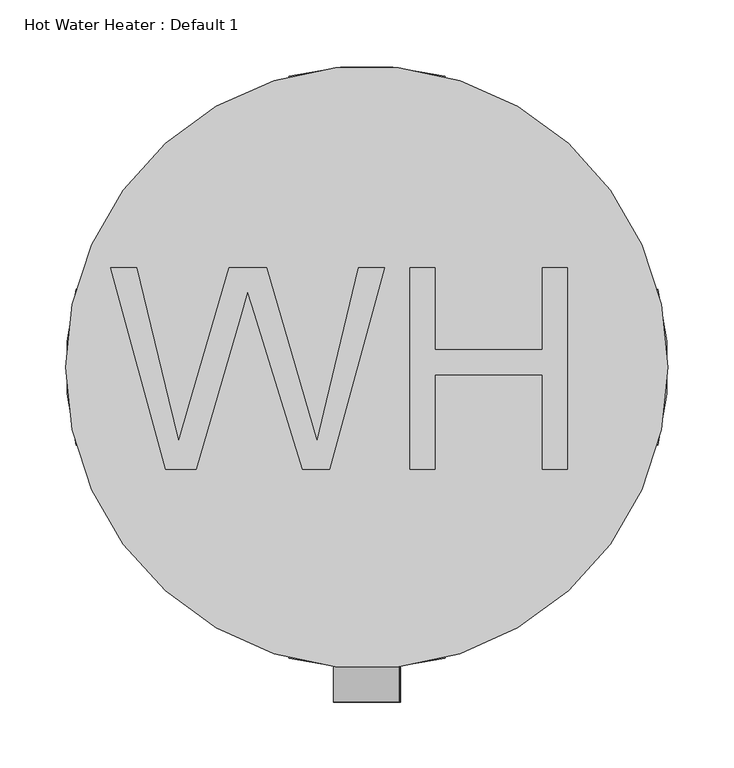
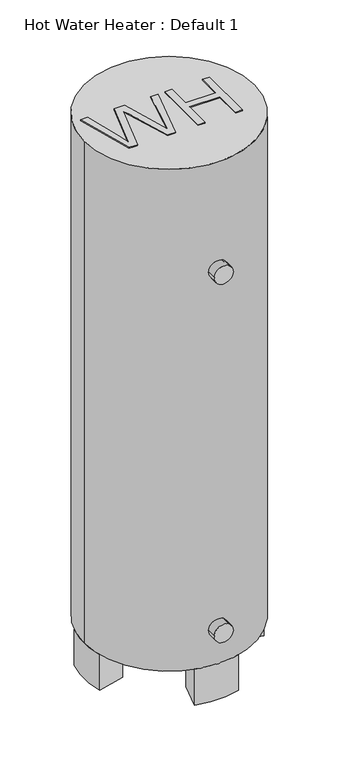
"""IFC4 building model written with IfcOpenShell, lengths in millimetres: proxy geometry, Hot Water Heater : Default 1."""

from ifc_helpers import new_model, si_unit, point, frame, frame_2d, origin, origin_with_axes, origin_2d, place, context, project, spatial, polyline, circle_curve, trimmed, segment, composite_curve, outline, extrude, source, transform, mapped, element, save


def hot_water_heater_default_1_f8e76a24(model_context):
    return source(origin(), model_context, "Body", "SweptSolid", [
        extrude(outline(polyline([(-152.7755426, -77.559922), (-194.5254402, 75.5354947), (-174.7904841, 75.5354947), (-150.5703108, -25.0828798), (-143.0949486, -56.1430095), (-135.0963111, -28.6710536), (-104.7463408, 75.5354947), (-76.3025879, 75.5354947), (-54.2502696, -0.0030398), (-37.8418497, -56.1430095), (-30.5907484, -25.9799232), (-6.1463142, 75.5354947), (13.5886419, 75.5354947), (-28.1986325, -77.559922), (-48.643748, -77.559922), (-85.3477761, 40.5507998), (-90.4683991, 57.0339733), (-96.224428, 37.1868869), (-129.6766736, -77.559922), (-152.7755426, -77.559922)])), frame((0.0, 0.0, 1524.0), z_axis=(0.0, 0.0, 1.0), x_axis=(1.0, 0.0, 0.0)), (0.0, 0.0, 1.0), 2.5796875),
        extrude(outline(polyline([(32.725569, -77.559922), (32.725569, 75.5354947), (51.862496, 75.5354947), (51.862496, 13.3404816), (133.1944361, 13.3404816), (133.1944361, 75.5354947), (152.3313632, 75.5354947), (152.3313632, -77.559922), (133.1944361, -77.559922), (133.1944361, -5.7964455), (51.862496, -5.7964455), (51.862496, -77.559922), (32.725569, -77.559922)])), frame((0.0, 0.0, 1524.0), z_axis=(0.0, 0.0, 1.0), x_axis=(1.0, 0.0, 0.0)), (0.0, 0.0, 1.0), 2.5796875),
        extrude(outline(composite_curve([segment(polyline([(-39.4440225, 147.2070959), (-59.1660337, 220.8106439)]), True, "CONTINUOUS"), segment(trimmed(circle_curve(origin_2d(), 228.6), [point((-59.1660337, 220.8106439))], [point((59.1660337, 220.8106439))], False, "CARTESIAN"), True, "CONTINUOUS"), segment(polyline([(59.1660337, 220.8106439), (39.4440225, 147.2070959)]), True, "CONTINUOUS"), segment(trimmed(circle_curve(origin_2d(), 152.4), [point((39.4440225, 147.2070959))], [point((-39.4440225, 147.2070959))], True, "CARTESIAN"), True, "CONTINUOUS")], self_intersect=False)), origin_with_axes(), (0.0, 0.0, 1.0), 101.6),
        extrude(outline(composite_curve([segment(polyline([(147.2070959, 39.4440225), (220.8106439, 59.1660337)]), True, "CONTINUOUS"), segment(trimmed(circle_curve(origin_2d(), 228.6), [point((220.8106439, 59.1660337))], [point((220.8106439, -59.1660337))], False, "CARTESIAN"), True, "CONTINUOUS"), segment(polyline([(220.8106439, -59.1660337), (147.2070959, -39.4440225)]), True, "CONTINUOUS"), segment(trimmed(circle_curve(origin_2d(), 152.4), [point((147.2070959, -39.4440225))], [point((147.2070959, 39.4440225))], True, "CARTESIAN"), True, "CONTINUOUS")], self_intersect=False)), origin_with_axes(), (0.0, 0.0, 1.0), 101.6),
        extrude(outline(composite_curve([segment(polyline([(-220.8106439, 59.1660337), (-147.2070959, 39.4440225)]), True, "CONTINUOUS"), segment(trimmed(circle_curve(origin_2d(), 152.4), [point((-147.2070959, 39.4440225))], [point((-147.2070959, -39.4440225))], True, "CARTESIAN"), True, "CONTINUOUS"), segment(polyline([(-147.2070959, -39.4440225), (-220.8106439, -59.1660337)]), True, "CONTINUOUS"), segment(trimmed(circle_curve(origin_2d(), 228.6), [point((-220.8106439, -59.1660337))], [point((-220.8106439, 59.1660337))], False, "CARTESIAN"), True, "CONTINUOUS")], self_intersect=False)), origin_with_axes(), (0.0, 0.0, 1.0), 101.6),
        extrude(outline(composite_curve([segment(polyline([(-59.1660337, -220.8106439), (-39.4440225, -147.2070959)]), True, "CONTINUOUS"), segment(trimmed(circle_curve(origin_2d(), 152.4), [point((-39.4440225, -147.2070959))], [point((39.4440225, -147.2070959))], True, "CARTESIAN"), True, "CONTINUOUS"), segment(polyline([(39.4440225, -147.2070959), (59.1660337, -220.8106439)]), True, "CONTINUOUS"), segment(trimmed(circle_curve(origin_2d(), 228.6), [point((59.1660337, -220.8106439))], [point((-59.1660337, -220.8106439))], False, "CARTESIAN"), True, "CONTINUOUS")], self_intersect=False)), origin_with_axes(), (0.0, 0.0, 1.0), 101.6),
        extrude(outline(composite_curve([segment(trimmed(circle_curve(origin_2d(), 228.6), [point((228.6, 0.0))], [point((-228.6, 0.0))], False, "CARTESIAN"), True, "CONTINUOUS"), segment(trimmed(circle_curve(origin_2d(), 228.6), [point((-228.6, 0.0))], [point((228.6, 0.0))], False, "CARTESIAN"), True, "CONTINUOUS")], self_intersect=False)), frame((0.0, 0.0, 101.6), z_axis=(0.0, 0.0, 1.0), x_axis=(1.0, 0.0, 0.0)), (0.0, 0.0, 1.0), 1422.4),
        extrude(outline(composite_curve([segment(trimmed(circle_curve(origin_2d(), 228.6), [point((-228.6, 0.0))], [point((228.6, 0.0))], False, "CARTESIAN"), True, "CONTINUOUS"), segment(trimmed(circle_curve(origin_2d(), 228.6), [point((228.6, 0.0))], [point((-228.6, 0.0))], False, "CARTESIAN"), True, "CONTINUOUS")], self_intersect=False)), frame((0.0, 0.0, 101.6), z_axis=(0.0, 0.0, 1.0), x_axis=(1.0, 0.0, 0.0)), (0.0, 0.0, 1.0), 1422.4),
        extrude(outline(composite_curve([segment(trimmed(circle_curve(frame_2d((203.2, 0.0)), 25.4), [point((203.2, 25.4))], [point((203.2, -25.4))], False, "CARTESIAN"), True, "CONTINUOUS"), segment(trimmed(circle_curve(frame_2d((203.2, 0.0)), 25.4), [point((203.2, -25.4))], [point((203.2, 25.4))], False, "CARTESIAN"), True, "CONTINUOUS")], self_intersect=False)), frame((0.0, -254.0, 0.0), z_axis=(0.0, 1.0, 0.0), x_axis=(0.0, 0.0, 1.0)), (0.0, 0.0, 1.0), 50.8),
        extrude(outline(composite_curve([segment(trimmed(circle_curve(frame_2d((1219.2, 0.0)), 25.4), [point((1219.2, 25.4))], [point((1219.2, -25.4))], False, "CARTESIAN"), True, "CONTINUOUS"), segment(trimmed(circle_curve(frame_2d((1219.2, 0.0)), 25.4), [point((1219.2, -25.4))], [point((1219.2, 25.4))], False, "CARTESIAN"), True, "CONTINUOUS")], self_intersect=False)), frame((0.0, -254.0, 0.0), z_axis=(0.0, 1.0, 0.0), x_axis=(0.0, 0.0, 1.0)), (0.0, 0.0, 1.0), 50.8),
        extrude(outline(composite_curve([segment(trimmed(circle_curve(frame_2d((1219.2, 0.0)), 25.4), [point((1219.2, -25.4))], [point((1219.2, 25.4))], False, "CARTESIAN"), True, "CONTINUOUS"), segment(trimmed(circle_curve(frame_2d((1219.2, 0.0)), 25.4), [point((1219.2, 25.4))], [point((1219.2, -25.4))], False, "CARTESIAN"), True, "CONTINUOUS")], self_intersect=False)), frame((0.0, -254.0, 0.0), z_axis=(0.0, 1.0, 0.0), x_axis=(0.0, 0.0, 1.0)), (0.0, 0.0, 1.0), 50.8),
        extrude(outline(composite_curve([segment(trimmed(circle_curve(frame_2d((203.2, 0.0)), 25.4), [point((203.2, -25.4))], [point((203.2, 25.4))], False, "CARTESIAN"), True, "CONTINUOUS"), segment(trimmed(circle_curve(frame_2d((203.2, 0.0)), 25.4), [point((203.2, 25.4))], [point((203.2, -25.4))], False, "CARTESIAN"), True, "CONTINUOUS")], self_intersect=False)), frame((0.0, -254.0, 0.0), z_axis=(0.0, 1.0, 0.0), x_axis=(0.0, 0.0, 1.0)), (0.0, 0.0, 1.0), 50.8),
    ])


if __name__ == "__main__":
    model = new_model("IFC4")
    model_context = context("Model", 3, world=origin())
    ifc_project = project(units=[si_unit("LENGTHUNIT", "METRE", prefix="MILLI")], contexts=[model_context])
    site = spatial("IfcSite", under=ifc_project)
    building = spatial("IfcBuilding", under=site)
    placement = place(None, origin())
    hot_water_heater_default_1_shape = hot_water_heater_default_1_f8e76a24(model_context)
    element("IfcBuildingElementProxy", 1, Name="Hot Water Heater : Default 1", ObjectType="Hot Water Heater : Default 1", at=placement, inside=building, context=model_context, shape_type="MappedRepresentation", body=[
        mapped(hot_water_heater_default_1_shape, transform((0.0, 0.0, 0.0), x_axis=(1.0, 0.0, 0.0), y_axis=(0.0, 1.0, 0.0), z_axis=(0.0, 0.0, 1.0))),
    ])
    save(model, "model.ifc")
